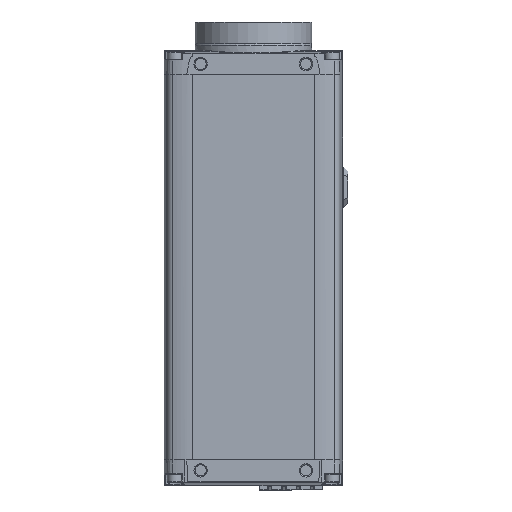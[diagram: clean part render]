
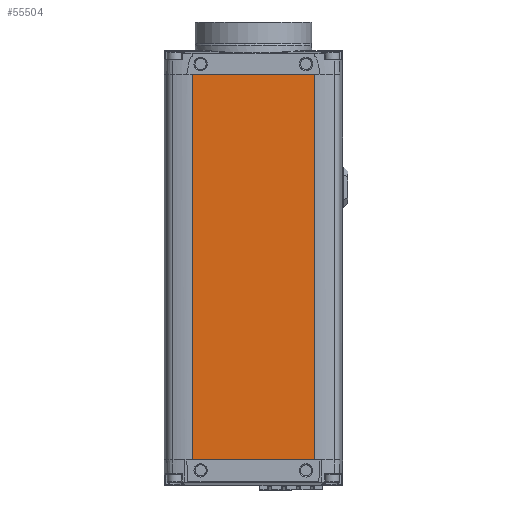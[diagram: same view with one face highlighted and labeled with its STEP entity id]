
A CAD part, front view. The second image highlights one B-rep face of the part: STEP entity #55504.
In plain terms, the highlighted planar face has unit normal (0, -1, 0).
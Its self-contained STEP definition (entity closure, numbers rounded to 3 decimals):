
#34956=CARTESIAN_POINT('',(-15.11,-14.5,0.));
#34957=VERTEX_POINT('',#34956);
#34965=CARTESIAN_POINT('',(15.11,-14.5,0.));
#34966=VERTEX_POINT('',#34965);
#34967=CARTESIAN_POINT('',(15.11,-14.5,0.));
#34968=DIRECTION('',(-1.0,0.0,0.0));
#34969=VECTOR('',#34968,30.22);
#34970=LINE('',#34967,#34969);
#34971=EDGE_CURVE('',#34966,#34957,#34970,.T.);
#55084=CARTESIAN_POINT('',(15.11,-14.5,-95.0));
#55085=VERTEX_POINT('',#55084);
#55093=CARTESIAN_POINT('',(-15.11,-14.5,-95.0));
#55094=VERTEX_POINT('',#55093);
#55095=CARTESIAN_POINT('',(-15.11,-14.5,-95.0));
#55096=DIRECTION('',(1.0,0.0,0.0));
#55097=VECTOR('',#55096,30.22);
#55098=LINE('',#55095,#55097);
#55099=EDGE_CURVE('',#55094,#55085,#55098,.T.);
#55365=CARTESIAN_POINT('',(15.11,-14.5,-95.0));
#55366=DIRECTION('',(0.0,0.0,1.0));
#55367=VECTOR('',#55366,95.);
#55368=LINE('',#55365,#55367);
#55369=EDGE_CURVE('',#55085,#34966,#55368,.T.);
#55488=CARTESIAN_POINT('',(0.,-14.5,-95.0));
#55489=DIRECTION('',(0.0,-1.0,0.0));
#55490=DIRECTION('',(0.0,0.0,1.0));
#55491=AXIS2_PLACEMENT_3D('',#55488,#55489,#55490);
#55492=PLANE('',#55491);
#55493=CARTESIAN_POINT('',(-15.11,-14.5,-95.0));
#55494=DIRECTION('',(0.0,0.0,1.0));
#55495=VECTOR('',#55494,95.);
#55496=LINE('',#55493,#55495);
#55497=EDGE_CURVE('',#55094,#34957,#55496,.T.);
#55498=ORIENTED_EDGE('',*,*,#55497,.F.);
#55499=ORIENTED_EDGE('',*,*,#55099,.T.);
#55500=ORIENTED_EDGE('',*,*,#55369,.T.);
#55501=ORIENTED_EDGE('',*,*,#34971,.T.);
#55502=EDGE_LOOP('',(#55498,#55499,#55500,#55501));
#55503=FACE_OUTER_BOUND('',#55502,.T.);
#55504=ADVANCED_FACE('',(#55503),#55492,.T.);
